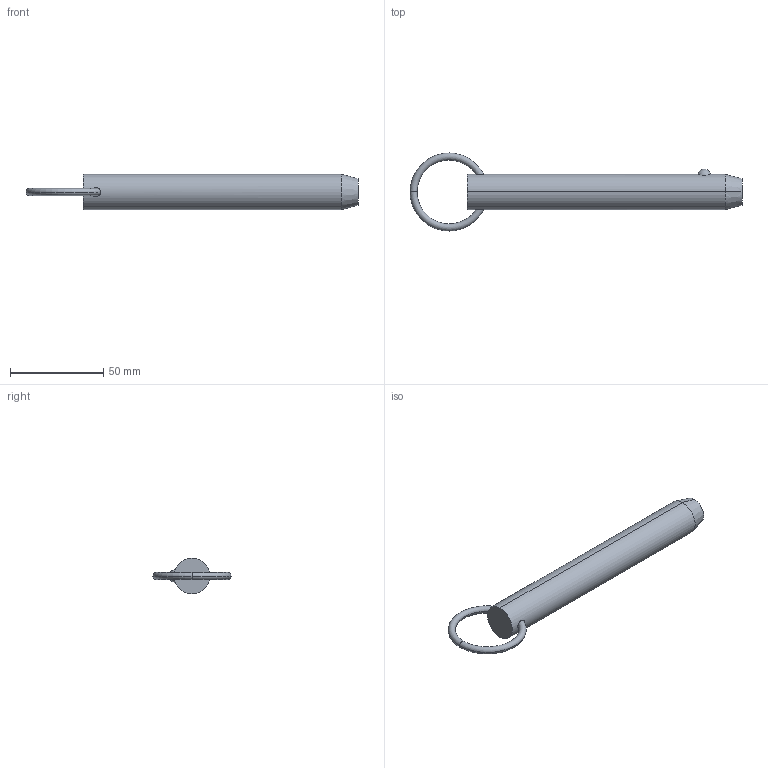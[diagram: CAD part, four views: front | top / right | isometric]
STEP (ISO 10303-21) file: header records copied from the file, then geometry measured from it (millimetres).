
FILE_DESCRIPTION (( 'STEP AP203' ), '1' );
FILE_NAME ('33010.W7545.step', '2024-11-01T10:44:18', ( '' ), ( '' ), 'SwSTEP 2.0', 'SolidWorks 2019', '' );
FILE_SCHEMA (( 'CONFIG_CONTROL_DESIGN' ));
Length unit declared in the file: millimetre
Products named in the file (3): Part2_33010.W7545; 33010.W7545; Part1_33010.W7545
Assembly tree (2 placements, depth 2):
  33010.W7545
    Part1_33010.W7545
    Part2_33010.W7545
Bounding box: 178.25 x 41.91 x 19.05 mm (x, y, z)
Volume: 42578.8 mm3; surface area: 10944 mm2
Topology: 2 solids, 2 shells, 16 faces, 31 edges, 18 vertices
Faces by surface type: torus 8, sphere 2, cone 2, cylinder 2, plane 2
Entity records: 893 total; most frequent: CARTESIAN_POINT 250, DIRECTION 88, ORIENTED_EDGE 62, AXIS2_PLACEMENT_3D 42, EDGE_CURVE 31, PERSON_AND_ORGANIZATION 26, CIRCLE 21, LOCAL_TIME 19
